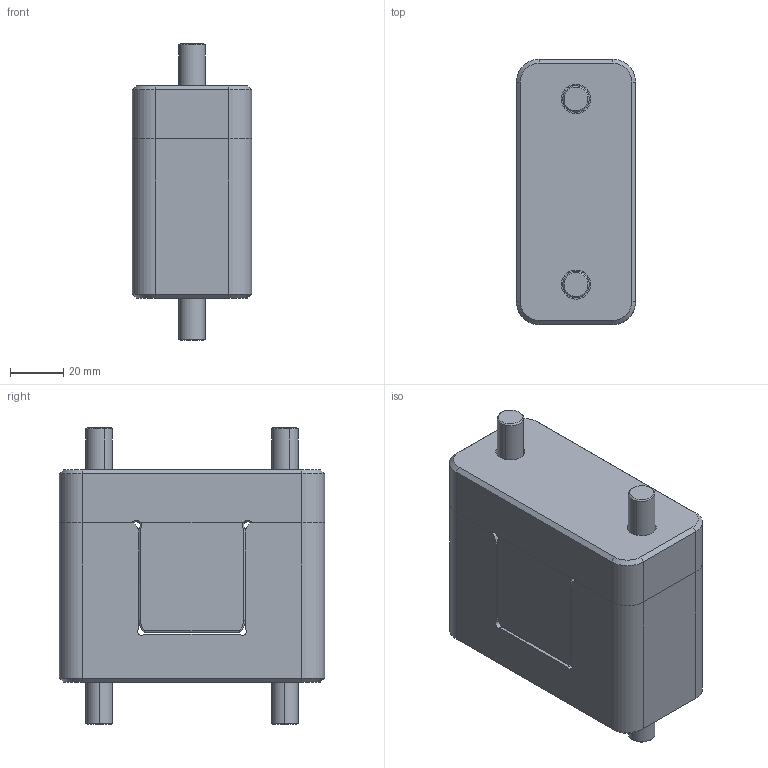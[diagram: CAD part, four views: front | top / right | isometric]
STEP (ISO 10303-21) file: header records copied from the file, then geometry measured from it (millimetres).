
FILE_DESCRIPTION (( 'STEP AP203' ), '1' );
FILE_NAME ('TLM45X100-R.step', '2018-03-16T16:57:00', ( '' ), ( '' ), 'SwSTEP 2.0', 'SolidWorks 2015', '' );
FILE_SCHEMA (( 'CONFIG_CONTROL_DESIGN' ));
Length unit declared in the file: millimetre
Products named in the file (5): TLM45X100-R; M10_X_65; TLM45X100-R FEMALE; M10_X_25; TLM45X100-R MALE
Assembly tree (6 placements, depth 2):
  TLM45X100-R
    TLM45X100-R MALE
    TLM45X100-R FEMALE
    M10_X_25  x2
    M10_X_65  x2
Bounding box: 45 x 100 x 112 mm (x, y, z)
Volume: 347797 mm3; surface area: 62133.6 mm2
Topology: 6 solids, 6 shells, 516 faces, 1106 edges, 722 vertices
Faces by surface type: cylinder 275, plane 189, torus 24, cone 24, bspline 4
Entity records: 14029 total; most frequent: DIRECTION 2544, CARTESIAN_POINT 2479, ORIENTED_EDGE 2060, AXIS2_PLACEMENT_3D 1067, EDGE_CURVE 1030, VERTEX_POINT 674, EDGE_LOOP 604, CIRCLE 582
